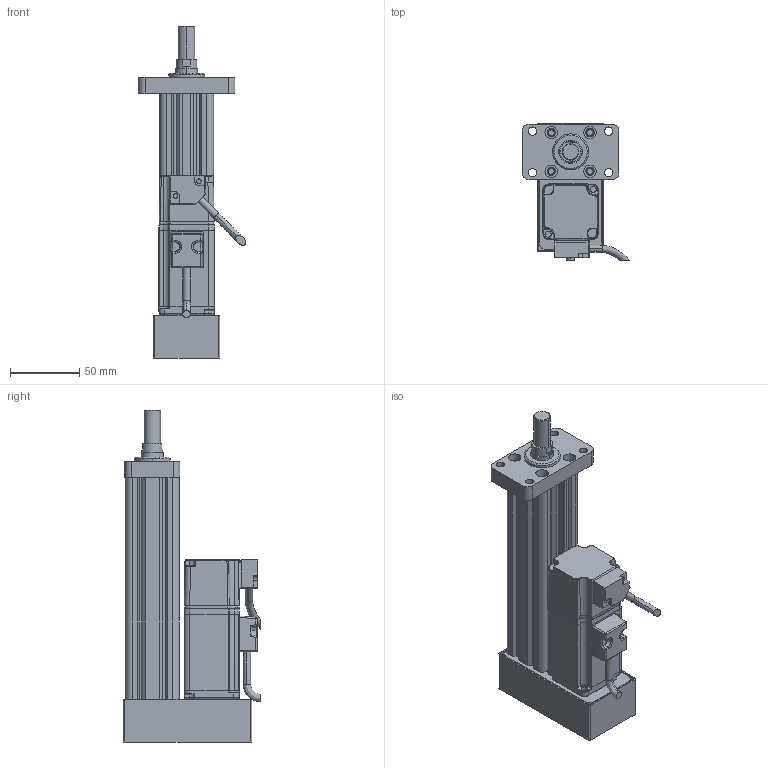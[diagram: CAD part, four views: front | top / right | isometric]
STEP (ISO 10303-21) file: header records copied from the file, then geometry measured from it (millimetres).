
FILE_DESCRIPTION (( 'STEP AP214' ), '1' );
FILE_NAME ('039-S100-D02-B-M3-C1-2.STEP', '2021-02-25T08:40:55', ( '' ), ( '' ), 'SwSTEP 2.0', 'SolidWorks 2018', '' );
FILE_SCHEMA (( 'AUTOMOTIVE_DESIGN' ));
Length unit declared in the file: millimetre
Products named in the file (7): CMC039-LJB; ECMA-CX0401ES-40框號系列機種-100W低慣量系列; CMC039-XT; 039-S100-D02-B-M3-C1-2; CMC039-DT; CMC039-FL; CMC039-GT
Assembly tree (6 placements, depth 2):
  039-S100-D02-B-M3-C1-2
    CMC039-GT
    CMC039-LJB
    CMC039-XT
    CMC039-FL
    CMC039-DT
    ECMA-CX0401ES-40框號系列機種-100W低慣量系列
Bounding box: 77.84 x 99.39 x 240 mm (x, y, z)
Volume: 397359.5 mm3; surface area: 131752.7 mm2
Topology: 6 solids, 14 shells, 615 faces, 1596 edges, 991 vertices
Faces by surface type: cylinder 250, plane 240, bspline 84, cone 41
Entity records: 24778 total; most frequent: CARTESIAN_POINT 10693, ORIENTED_EDGE 3126, DIRECTION 2457, EDGE_CURVE 1563, VERTEX_POINT 991, AXIS2_PLACEMENT_3D 842, VECTOR 773, LINE 773
